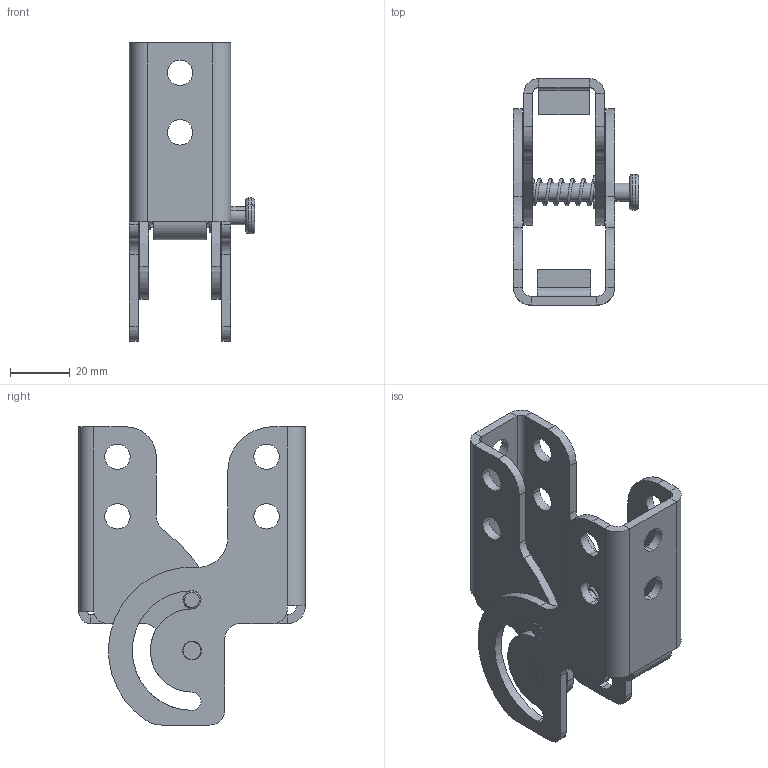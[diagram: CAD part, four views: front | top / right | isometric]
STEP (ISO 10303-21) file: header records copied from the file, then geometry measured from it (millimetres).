
FILE_DESCRIPTION (( 'STEP AP214' ), '1' );
FILE_NAME ('3.ST310.001 - 0.STEP', '2026-02-06T10:08:45', ( '' ), ( '' ), 'SwSTEP 2.0', 'SolidWorks 2021', '' );
FILE_SCHEMA (( 'AUTOMOTIVE_DESIGN' ));
Length unit declared in the file: millimetre
Products named in the file (7): 3.ST310.001 - 0; P.051001_00-01; P.050994_00-01; DIN 6799_5-ST-OC; P.051018_00-01; P.052269_00-01; P.051017_00-01
Assembly tree (7 placements, depth 2):
  3.ST310.001 - 0
    P.051017_00-01
    P.051018_00-01
    P.051001_00-01  x2
    P.050994_00-01
    P.052269_00-01
    DIN 6799_5-ST-OC
Bounding box: 42 x 76 x 100 mm (x, y, z)
Volume: 42311 mm3; surface area: 34168.1 mm2
Topology: 9 solids, 9 shells, 439 faces, 1191 edges, 774 vertices
Faces by surface type: plane 284, cylinder 135, bspline 10, cone 6, torus 4
Entity records: 14265 total; most frequent: CARTESIAN_POINT 5376, DIRECTION 1873, ORIENTED_EDGE 1762, EDGE_CURVE 881, AXIS2_PLACEMENT_3D 673, VERTEX_POINT 568, LINE 527, VECTOR 527
